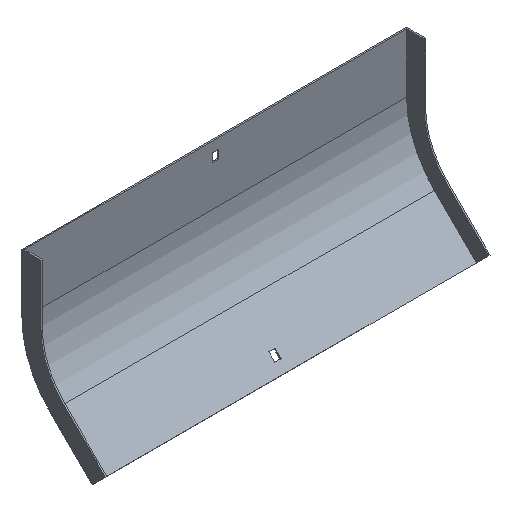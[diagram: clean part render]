
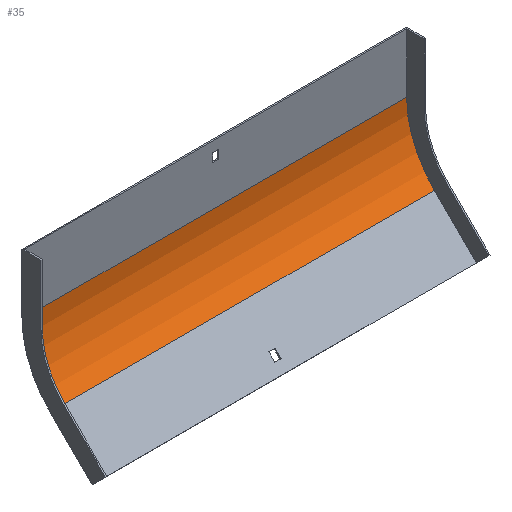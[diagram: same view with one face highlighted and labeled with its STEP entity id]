
A CAD part, isometric view. The second image highlights one B-rep face of the part: STEP entity #35.
In plain terms, the highlighted cylindrical face has radius 100 mm (diameter 200 mm), a partial arc.
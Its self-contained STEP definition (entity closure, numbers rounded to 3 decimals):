
#32 = LINE ( 'NONE', #306, #786 ) ;
#35 = ADVANCED_FACE ( 'NONE', ( #48 ), #716, .F. ) ;
#48 = FACE_OUTER_BOUND ( 'NONE', #699, .T. ) ;
#51 = ORIENTED_EDGE ( 'NONE', *, *, #491, .T. ) ;
#78 = DIRECTION ( 'NONE',  ( -1., 0., 0. ) ) ;
#83 = VERTEX_POINT ( 'NONE', #667 ) ;
#88 = VECTOR ( 'NONE', #78, 1000. ) ;
#104 = CIRCLE ( 'NONE', #293, 100. ) ;
#272 = EDGE_CURVE ( 'NONE', #811, #753, #598, .T. ) ;
#275 = CARTESIAN_POINT ( 'NONE',  ( -202., -1.5, -62.73 ) ) ;
#287 = CARTESIAN_POINT ( 'NONE',  ( 203.5, -1.5, -62.73 ) ) ;
#292 = AXIS2_PLACEMENT_3D ( 'NONE', #577, #574, #854 ) ;
#293 = AXIS2_PLACEMENT_3D ( 'NONE', #496, #837, #568 ) ;
#306 = CARTESIAN_POINT ( 'NONE',  ( 203.5, -30.789, -133.441 ) ) ;
#316 = ORIENTED_EDGE ( 'NONE', *, *, #835, .T. ) ;
#350 = ORIENTED_EDGE ( 'NONE', *, *, #272, .F. ) ;
#465 = VERTEX_POINT ( 'NONE', #602 ) ;
#472 = ORIENTED_EDGE ( 'NONE', *, *, #780, .F. ) ;
#491 = EDGE_CURVE ( 'NONE', #83, #753, #763, .T. ) ;
#496 = CARTESIAN_POINT ( 'NONE',  ( 202., -101.5, -62.73 ) ) ;
#500 = DIRECTION ( 'NONE',  ( -1., 0., 0. ) ) ;
#557 = DIRECTION ( 'NONE',  ( -1., 0., 0. ) ) ;
#568 = DIRECTION ( 'NONE',  ( 0., 0., 1. ) ) ;
#573 = CARTESIAN_POINT ( 'NONE',  ( -202., -30.789, -133.441 ) ) ;
#574 = DIRECTION ( 'NONE',  ( 1., 0., 0. ) ) ;
#575 = CARTESIAN_POINT ( 'NONE',  ( 203.5, -101.5, -62.73 ) ) ;
#577 = CARTESIAN_POINT ( 'NONE',  ( -202., -101.5, -62.73 ) ) ;
#598 = CIRCLE ( 'NONE', #292, 100. ) ;
#602 = CARTESIAN_POINT ( 'NONE',  ( 202., -30.789, -133.441 ) ) ;
#667 = CARTESIAN_POINT ( 'NONE',  ( 202., -1.5, -62.73 ) ) ;
#699 = EDGE_LOOP ( 'NONE', ( #350, #472, #316, #51 ) ) ;
#716 = CYLINDRICAL_SURFACE ( 'NONE', #725, 100. ) ;
#725 = AXIS2_PLACEMENT_3D ( 'NONE', #575, #557, #769 ) ;
#753 = VERTEX_POINT ( 'NONE', #275 ) ;
#763 = LINE ( 'NONE', #287, #88 ) ;
#769 = DIRECTION ( 'NONE',  ( 0., 0., 1. ) ) ;
#780 = EDGE_CURVE ( 'NONE', #465, #811, #32, .T. ) ;
#786 = VECTOR ( 'NONE', #500, 1000. ) ;
#811 = VERTEX_POINT ( 'NONE', #573 ) ;
#835 = EDGE_CURVE ( 'NONE', #465, #83, #104, .T. ) ;
#837 = DIRECTION ( 'NONE',  ( 1., 0., 0. ) ) ;
#854 = DIRECTION ( 'NONE',  ( 0., 0., 1. ) ) ;
